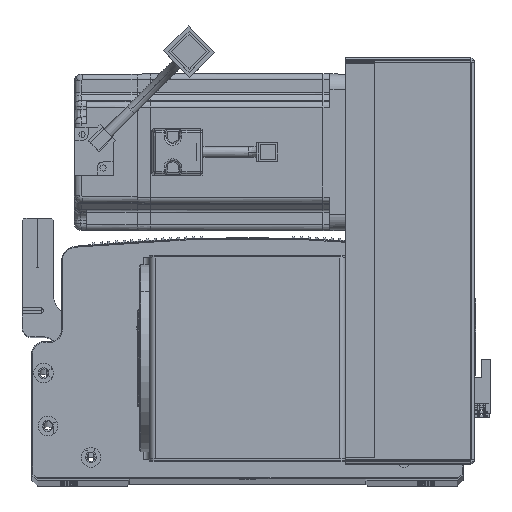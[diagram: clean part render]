
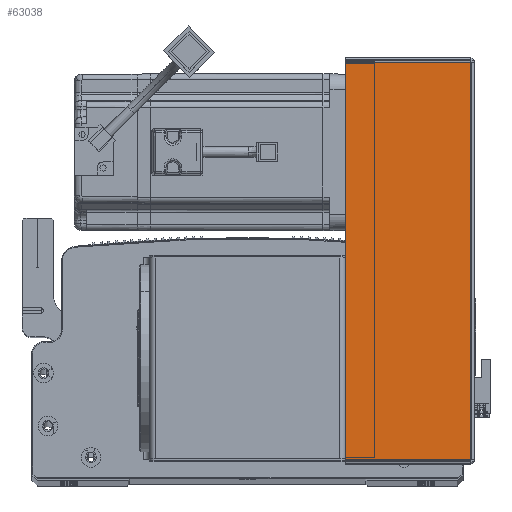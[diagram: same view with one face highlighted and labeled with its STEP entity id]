
A CAD part, top view. The second image highlights one B-rep face of the part: STEP entity #63038.
In plain terms, the highlighted planar face has unit normal (0, 0, 1) as drawn and (0, -1, 0) by its records, which use the part's own axes.
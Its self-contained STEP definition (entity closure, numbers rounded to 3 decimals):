
#448 = DIRECTION ( 'NONE',  ( 1., 0., 0. ) ) ;
#488 = CARTESIAN_POINT ( 'NONE',  ( 0.737, -1.5, 0. ) ) ;
#6456 = VERTEX_POINT ( 'NONE', #19388 ) ;
#6592 = CARTESIAN_POINT ( 'NONE',  ( 0.737, -1.5, -203.293 ) ) ;
#6726 = CARTESIAN_POINT ( 'NONE',  ( 0., -1.5, -0.707 ) ) ;
#7389 = VERTEX_POINT ( 'NONE', #58547 ) ;
#10932 = CARTESIAN_POINT ( 'NONE',  ( 64.5, -1.5, -203.293 ) ) ;
#11916 = ORIENTED_EDGE ( 'NONE', *, *, #48891, .F. ) ;
#12183 = LINE ( 'NONE', #13811, #69709 ) ;
#13811 = CARTESIAN_POINT ( 'NONE',  ( 64.5, -1.5, 0. ) ) ;
#15679 = AXIS2_PLACEMENT_3D ( 'NONE', #47708, #33039, #61373 ) ;
#16687 = EDGE_CURVE ( 'NONE', #6456, #7389, #45196, .T. ) ;
#19388 = CARTESIAN_POINT ( 'NONE',  ( 0.737, -1.5, -0.707 ) ) ;
#20407 = DIRECTION ( 'NONE',  ( 1., 0., 0. ) ) ;
#24246 = EDGE_CURVE ( 'NONE', #34838, #85812, #61191, .T. ) ;
#28064 = VECTOR ( 'NONE', #448, 1000. ) ;
#33039 = DIRECTION ( 'NONE',  ( 0., 1., 0. ) ) ;
#34141 = DIRECTION ( 'NONE',  ( 0., 0., 1. ) ) ;
#34838 = VERTEX_POINT ( 'NONE', #6592 ) ;
#35552 = VECTOR ( 'NONE', #20407, 1000. ) ;
#43266 = ORIENTED_EDGE ( 'NONE', *, *, #16687, .F. ) ;
#45196 = LINE ( 'NONE', #6726, #35552 ) ;
#47708 = CARTESIAN_POINT ( 'NONE',  ( 0., -1.5, 0. ) ) ;
#48891 = EDGE_CURVE ( 'NONE', #34838, #6456, #71785, .T. ) ;
#56032 = EDGE_CURVE ( 'NONE', #85812, #7389, #12183, .T. ) ;
#58547 = CARTESIAN_POINT ( 'NONE',  ( 64.5, -1.5, -0.707 ) ) ;
#61080 = PLANE ( 'NONE',  #15679 ) ;
#61191 = LINE ( 'NONE', #75238, #28064 ) ;
#61373 = DIRECTION ( 'NONE',  ( -1., 0., 0. ) ) ;
#63038 = ADVANCED_FACE ( 'NONE', ( #79133 ), #61080, .F. ) ;
#63227 = ORIENTED_EDGE ( 'NONE', *, *, #56032, .T. ) ;
#66701 = EDGE_LOOP ( 'NONE', ( #11916, #86791, #63227, #43266 ) ) ;
#68346 = DIRECTION ( 'NONE',  ( 0., 0., 1. ) ) ;
#68630 = VECTOR ( 'NONE', #34141, 1000. ) ;
#69709 = VECTOR ( 'NONE', #68346, 1000. ) ;
#71785 = LINE ( 'NONE', #488, #68630 ) ;
#75238 = CARTESIAN_POINT ( 'NONE',  ( 0., -1.5, -203.293 ) ) ;
#79133 = FACE_OUTER_BOUND ( 'NONE', #66701, .T. ) ;
#85812 = VERTEX_POINT ( 'NONE', #10932 ) ;
#86791 = ORIENTED_EDGE ( 'NONE', *, *, #24246, .T. ) ;
